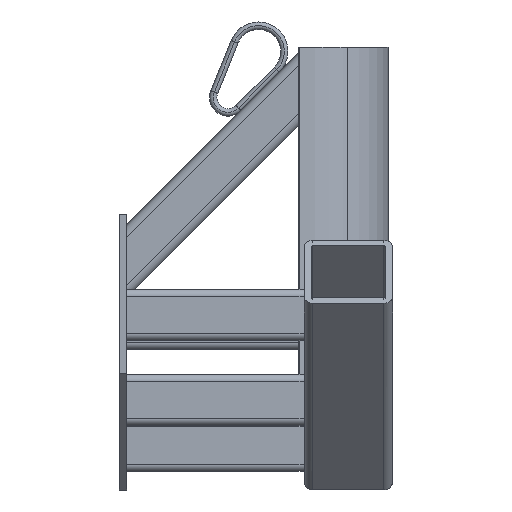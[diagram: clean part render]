
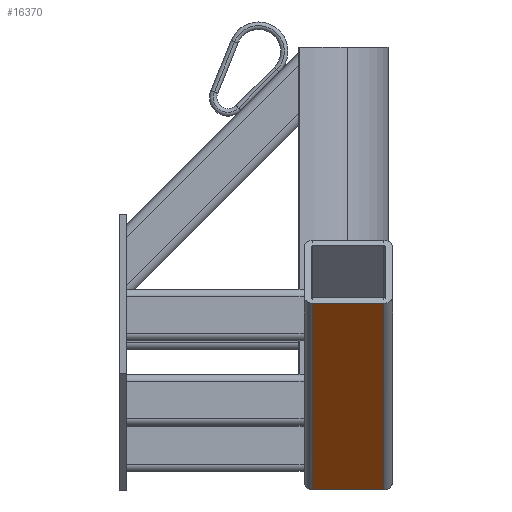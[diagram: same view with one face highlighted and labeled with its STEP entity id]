
A CAD part, left-side view. The second image highlights one B-rep face of the part: STEP entity #16370.
In plain terms, the highlighted planar face has unit normal (-0.707, 0, -0.707).
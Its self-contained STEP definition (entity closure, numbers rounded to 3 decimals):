
#16350=AXIS2_PLACEMENT_3D('Plane Axis2P3D',#16347,#16348,#16349) ;
#15878=CARTESIAN_POINT('Vertex',(-1071.734,-339.05,301.221)) ;
#15881=CARTESIAN_POINT('Line Origine',(-1071.734,-400.25,301.221)) ;
#15885=CARTESIAN_POINT('Vertex',(-1071.734,-461.45,301.221)) ;
#16322=CARTESIAN_POINT('Line Origine',(-894.957,-461.45,124.444)) ;
#16326=CARTESIAN_POINT('Vertex',(-750.,-461.45,-20.512)) ;
#16347=CARTESIAN_POINT('Axis2P3D Location',(-1071.734,-461.45,301.221)) ;
#16352=CARTESIAN_POINT('Line Origine',(-910.867,-339.05,140.354)) ;
#16356=CARTESIAN_POINT('Vertex',(-750.,-339.05,-20.512)) ;
#16359=CARTESIAN_POINT('Line Origine',(-750.,-400.25,-20.512)) ;
#15882=DIRECTION('Vector Direction',(0.,1.,0.)) ;
#16323=DIRECTION('Vector Direction',(-0.707,0.,0.707)) ;
#16348=DIRECTION('Axis2P3D Direction',(-0.707,0.,-0.707)) ;
#16349=DIRECTION('Axis2P3D XDirection',(0.,1.,0.)) ;
#16353=DIRECTION('Vector Direction',(0.707,0.,-0.707)) ;
#16360=DIRECTION('Vector Direction',(0.,1.,0.)) ;
#15883=VECTOR('Line Direction',#15882,1.) ;
#16324=VECTOR('Line Direction',#16323,1.) ;
#16354=VECTOR('Line Direction',#16353,1.) ;
#16361=VECTOR('Line Direction',#16360,1.) ;
#16365=ORIENTED_EDGE('',*,*,#16328,.F.) ;
#16366=ORIENTED_EDGE('',*,*,#15887,.F.) ;
#16367=ORIENTED_EDGE('',*,*,#16358,.T.) ;
#16368=ORIENTED_EDGE('',*,*,#16363,.F.) ;
#16370=ADVANCED_FACE('PartBody',(#16369),#16351,.T.) ;
#15887=EDGE_CURVE('',#15879,#15886,#15884,.F.) ;
#16328=EDGE_CURVE('',#15886,#16327,#16325,.F.) ;
#16358=EDGE_CURVE('',#15879,#16357,#16355,.T.) ;
#16363=EDGE_CURVE('',#16327,#16357,#16362,.T.) ;
#16364=EDGE_LOOP('',(#16365,#16366,#16367,#16368)) ;
#16369=FACE_OUTER_BOUND('',#16364,.T.) ;
#15884=LINE('Line',#15881,#15883) ;
#16325=LINE('Line',#16322,#16324) ;
#16355=LINE('Line',#16352,#16354) ;
#16362=LINE('Line',#16359,#16361) ;
#16351=PLANE('',#16350) ;
#15879=VERTEX_POINT('',#15878) ;
#15886=VERTEX_POINT('',#15885) ;
#16327=VERTEX_POINT('',#16326) ;
#16357=VERTEX_POINT('',#16356) ;
